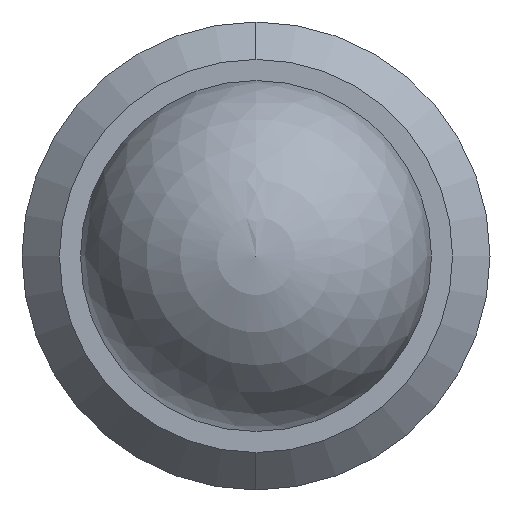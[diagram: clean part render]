
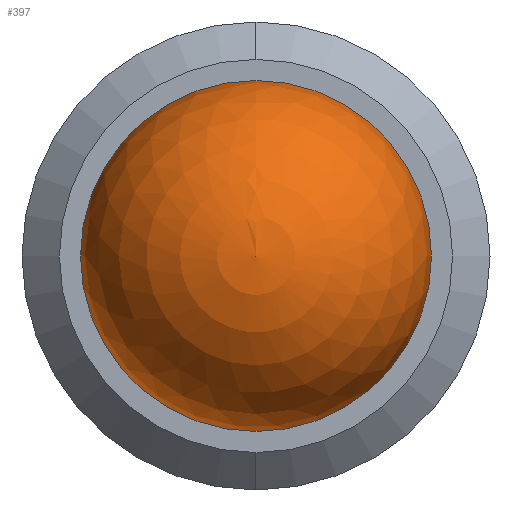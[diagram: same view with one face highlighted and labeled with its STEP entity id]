
A CAD part, left-side view. The second image highlights one B-rep face of the part: STEP entity #397.
In plain terms, the highlighted spherical face has radius 2.381 mm.
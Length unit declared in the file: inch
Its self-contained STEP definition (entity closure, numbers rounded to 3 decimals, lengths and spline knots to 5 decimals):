
#39 = EDGE_CURVE ( 'NONE', #123, #47, #323, .T. ) ;
#47 = VERTEX_POINT ( 'NONE', #553 ) ;
#49 = EDGE_CURVE ( 'NONE', #123, #47, #531, .T. ) ;
#67 = DIRECTION ( 'NONE',  ( 0., 0., -1. ) ) ;
#105 = EDGE_LOOP ( 'NONE', ( #559, #232 ) ) ;
#108 = DIRECTION ( 'NONE',  ( -1., 0., 0. ) ) ;
#123 = VERTEX_POINT ( 'NONE', #212 ) ;
#212 = CARTESIAN_POINT ( 'NONE',  ( 0., 0.09375, 0. ) ) ;
#232 = ORIENTED_EDGE ( 'NONE', *, *, #49, .T. ) ;
#245 = AXIS2_PLACEMENT_3D ( 'NONE', #260, #108, #452 ) ;
#260 = CARTESIAN_POINT ( 'NONE',  ( 0., 0., 0. ) ) ;
#278 = SPHERICAL_SURFACE ( 'NONE', #245, 0.09375 ) ;
#318 = DIRECTION ( 'NONE',  ( 0., 0., 1. ) ) ;
#323 = CIRCLE ( 'NONE', #544, 0.09375 ) ;
#328 = DIRECTION ( 'NONE',  ( -1., 0., 0. ) ) ;
#397 = ADVANCED_FACE ( 'NONE', ( #405 ), #278, .T. ) ;
#405 = FACE_OUTER_BOUND ( 'NONE', #105, .T. ) ;
#413 = CARTESIAN_POINT ( 'NONE',  ( 0., 0., 0. ) ) ;
#452 = DIRECTION ( 'NONE',  ( 0., 0., 1. ) ) ;
#467 = DIRECTION ( 'NONE',  ( 1., 0., 0. ) ) ;
#531 = CIRCLE ( 'NONE', #537, 0.09375 ) ;
#537 = AXIS2_PLACEMENT_3D ( 'NONE', #413, #328, #318 ) ;
#544 = AXIS2_PLACEMENT_3D ( 'NONE', #604, #467, #67 ) ;
#553 = CARTESIAN_POINT ( 'NONE',  ( 0., -0.09375, 0. ) ) ;
#559 = ORIENTED_EDGE ( 'NONE', *, *, #39, .F. ) ;
#604 = CARTESIAN_POINT ( 'NONE',  ( 0., 0., 0. ) ) ;
